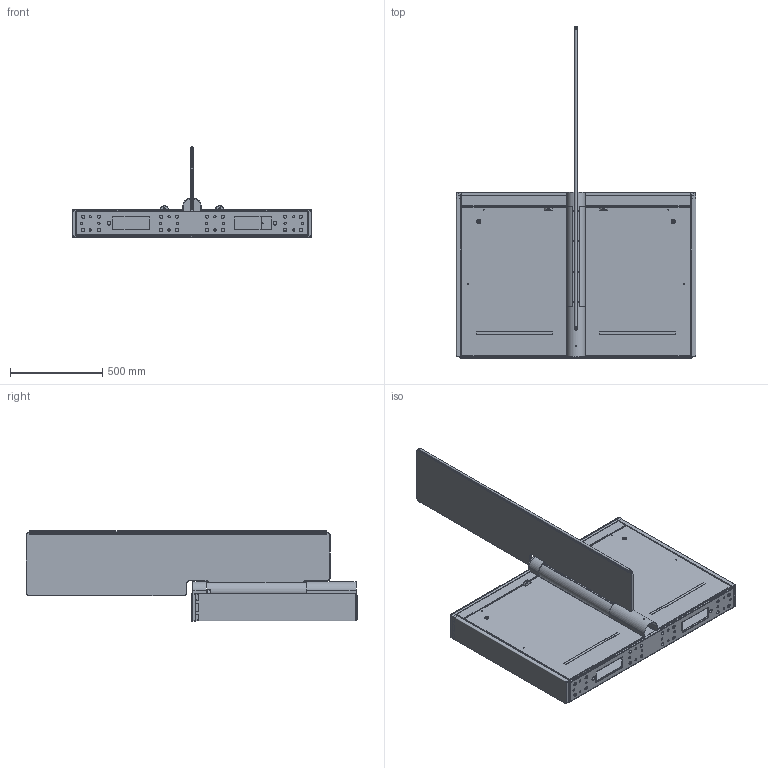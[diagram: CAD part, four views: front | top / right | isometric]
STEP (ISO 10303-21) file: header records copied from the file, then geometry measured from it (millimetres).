
FILE_DESCRIPTION (( 'STEP AP214' ), '1' );
FILE_NAME ('スターン_サイド【標準】.STEP', '2023-02-27T00:25:23', ( 'cadcl' ), ( 'Hewlett-Packard Company' ), 'SwSTEP 2.0', 'SolidWorks 2022', '' );
FILE_SCHEMA (( 'AUTOMOTIVE_DESIGN' ));
Length unit declared in the file: millimetre
Products named in the file (44): 201-06327-55; 201-06330-12; R33-00101-00_干渉回避用; 201-06327-48; 201-06327-86; 201-06327-22; 201-06505-06_閉扉; 201-06327-66; 201-06330-22; T05-00009-00; 201-06329-00; 201-06327-00; 201-06327-49; 201-06330-34; 201-06206-03_ガラス（ｔ１２）取付時; 201-06327-46; 201-06327-73; 201-06327-61; 201-06290-02; 201-06327-21; 201-06327-78_施錠; 201-06290-15_面発光あり; 201-06329-11; 201-06327-54; 201-06290-16; 201-06327-72_施錠; 201-06327-59; 201-06329-13; 201-06327-51; Z01-00419-00; 301-06197-17_施錠; Z01-00712-00; 201-06330-29; スターン_サイド【標準】; R33-00022-00_干渉回避用; 201-06330-26; 201-06505-46; 201-06330-15; 201-05997-02; 301-06197-18_施錠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
Assembly tree (52 placements, depth 4):
  R33-00101-00_干渉回避用
  スターン_サイド【標準】
    201-06505-06_閉扉
      201-06330-15
        201-06327-00
      201-06327-48
        201-06327-46
        201-06329-09
      201-06327-51
        201-06327-49
        201-06329-09
      201-06330-29
        201-06330-26
        201-06329-13
      201-06327-72_施錠
        201-06327-66
        201-06329-11
        201-06329-10
        301-06197-17_施錠
        T05-00009-00
        Z01-00419-00
      201-06327-78_施錠
        201-06327-73
        201-06329-11
        201-06329-10
        301-06197-18_施錠
        Z01-00419-00
        T05-00009-00
      201-06330-12
        201-06330-22
      201-06327-21
      201-06327-22
      201-06327-54
      201-06327-55
      201-06330-34
      201-06327-59
        201-06290-02
      Z01-00712-00  x4
    201-06327-59
      201-06290-02
    201-06327-61
      201-05997-02
    201-06327-62
    201-06329-00
    201-06206-03_ガラス（ｔ１２）取付時
    Z01-00712-00  x4
    201-06327-86
      201-06290-16
        201-06290-15_面発光あり
  R33-00022-00_干渉回避用
  201-06505-46
Bounding box: 1300 x 1800 x 489.97 mm (x, y, z)
Volume: 12358323.6 mm3; surface area: 7971449.3 mm2
Topology: 40 solids, 40 shells, 2327 faces, 5965 edges, 3753 vertices
Faces by surface type: plane 1362, cylinder 756, cone 125, bspline 68, sphere 16
Entity records: 66176 total; most frequent: CARTESIAN_POINT 13761, ORIENTED_EDGE 10508, DIRECTION 10306, EDGE_CURVE 5254, LINE 3674, VECTOR 3674, AXIS2_PLACEMENT_3D 3316, VERTEX_POINT 3301
